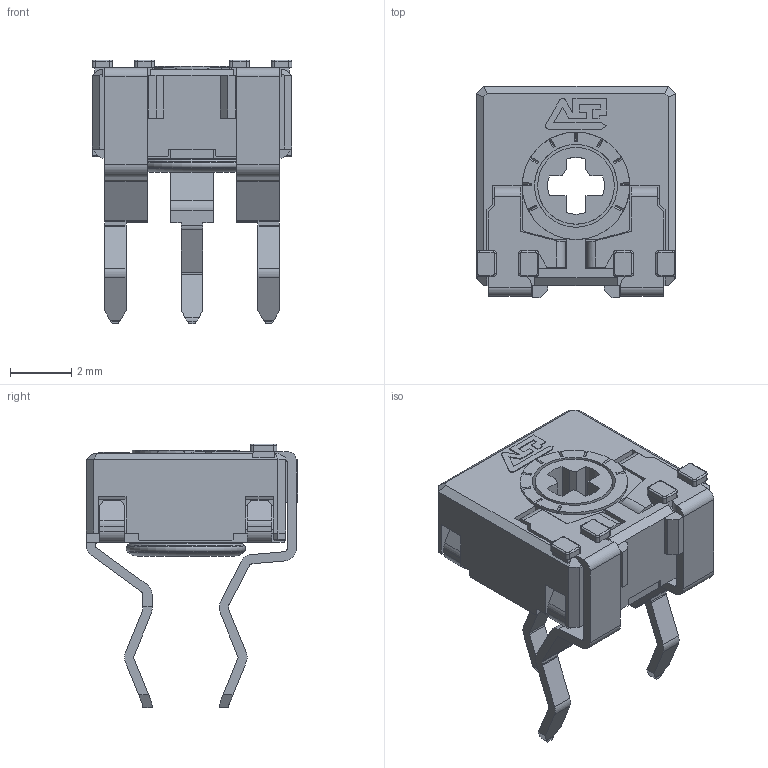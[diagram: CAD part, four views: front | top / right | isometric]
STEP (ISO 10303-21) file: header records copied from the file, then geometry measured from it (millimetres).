
FILE_DESCRIPTION(/* description */ (''),/* implementation_level */ '2;1');
FILE_NAME(/* name */ 'C:\Users\CEM\Desktop\ENVIAR\TRANSICION 3D CATALOGOS\COMCA6XV2,5 SNP.stp',/* time_stamp */ '2026-03-20T08:28:23+01:00',/* author */ ('CEM'),/* organization */ (''),/* preprocessor_version */ 'ST-DEVELOPER v16.13',/* originating_system */ 'Autodesk Inventor 2018',/* authorisation */ '');
FILE_SCHEMA (('AUTOMOTIVE_DESIGN { 1 0 10303 214 3 1 1 }'));
Length unit declared in the file: millimetre
Products named in the file (1): CARCASA CA6
Bounding box: 6.5 x 6.9 x 8.6 mm (x, y, z)
Volume: 94.4 mm3; surface area: 421.3 mm2
Topology: 1 solids, 1 shells, 588 faces, 1649 edges, 1060 vertices
Faces by surface type: plane 433, cylinder 116, cone 17, bspline 16, torus 6
Full cylindrical faces by diameter (mm): 2.5 x1, 2.7 x1, 2.9 x1, 3.1 x1, 3.5 x1
Entity records: 18958 total; most frequent: CARTESIAN_POINT 3457, ORIENTED_EDGE 3268, DIRECTION 3068, EDGE_CURVE 1631, LINE 1288, VECTOR 1288, VERTEX_POINT 1057, AXIS2_PLACEMENT_3D 890
